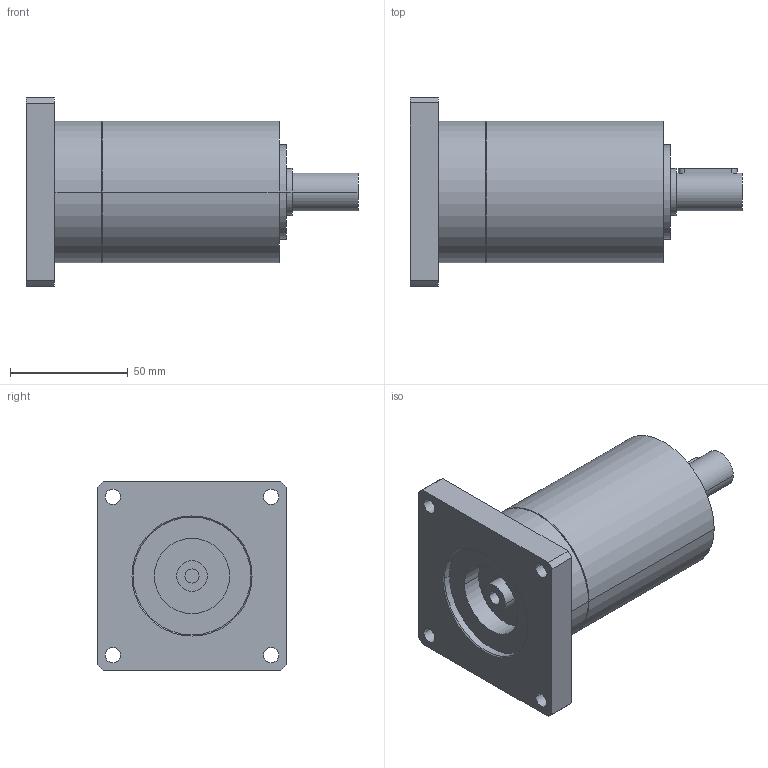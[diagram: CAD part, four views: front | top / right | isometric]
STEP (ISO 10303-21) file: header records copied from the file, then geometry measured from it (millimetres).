
FILE_DESCRIPTION(('CoCreate Modeling STEP Export'),'2;1');
FILE_NAME('GPR75_ig-9-12-16-20-24-30-36_16_B14_6_P27.stp','2014-08-25T16:04:55',(''),(''),'CoCreate Modeling STEP processor for AP214 (Solid Model)','CoCreate Modeling 16.00C 25-Feb-2009 (C) Parametric Technology GmbH','');
FILE_SCHEMA(('AUTOMOTIVE_DESIGN { 1 0 10303 214 1 1 1 1 }'));
Length unit declared in the file: millimetre
Products named in the file (2): GPR75_ig-9-12-16-20-24-30-36_16_B14_6_P27
Assembly tree (1 placements, depth 2):
  GPR75_ig-9-12-16-20-24-30-36_16_B14_6_P27
    GPR75_ig-9-12-16-20-24-30-36_16_B14_6_P27
Bounding box: 140.9 x 80 x 80 mm (x, y, z)
Volume: 340859.7 mm3; surface area: 40276.3 mm2
Topology: 1 solids, 1 shells, 72 faces, 187 edges, 129 vertices
Faces by surface type: cylinder 42, plane 22, cone 8
Entity records: 1954 total; most frequent: ORIENTED_EDGE 370, CARTESIAN_POINT 361, DIRECTION 268, EDGE_CURVE 185, VERTEX_POINT 129, AXIS2_PLACEMENT_3D 100, EDGE_LOOP 94, FACE_OUTER_BOUND 72
